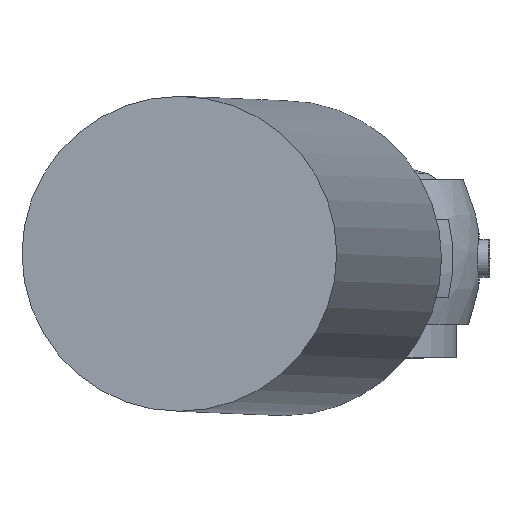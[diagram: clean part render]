
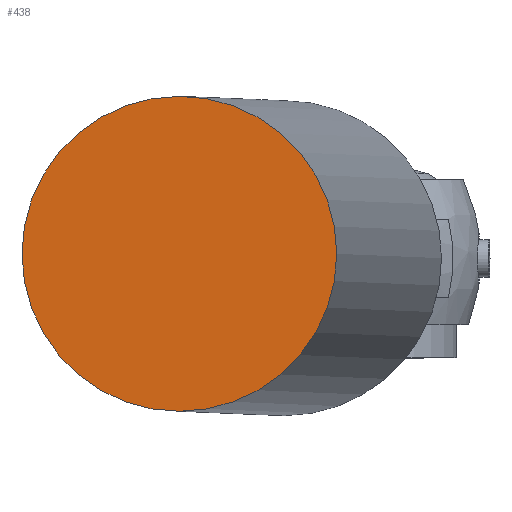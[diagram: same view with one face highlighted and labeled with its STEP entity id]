
A CAD part, top view. The second image highlights one B-rep face of the part: STEP entity #438.
In plain terms, the highlighted planar face has unit normal (-0.042, 0, 0.999).
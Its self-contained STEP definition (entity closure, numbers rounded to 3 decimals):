
#80 = EDGE_CURVE ( 'NONE', #1048, #1048, #2537, .T. ) ;
#167 = EDGE_LOOP ( 'NONE', ( #1125 ) ) ;
#303 = AXIS2_PLACEMENT_3D ( 'NONE', #1460, #651, #677 ) ;
#438 = ADVANCED_FACE ( 'NONE', ( #1096 ), #1683, .T. ) ;
#651 = DIRECTION ( 'NONE',  ( -0.042, 0., 0.999 ) ) ;
#677 = DIRECTION ( 'NONE',  ( 0., 1., 0. ) ) ;
#848 = CARTESIAN_POINT ( 'NONE',  ( 325.267, 389.5, 2099.118 ) ) ;
#1048 = VERTEX_POINT ( 'NONE', #848 ) ;
#1096 = FACE_OUTER_BOUND ( 'NONE', #167, .T. ) ;
#1125 = ORIENTED_EDGE ( 'NONE', *, *, #80, .T. ) ;
#1414 = DIRECTION ( 'NONE',  ( -0.042, 0., 0.999 ) ) ;
#1460 = CARTESIAN_POINT ( 'NONE',  ( 325.267, 339.5, 2099.118 ) ) ;
#1462 = AXIS2_PLACEMENT_3D ( 'NONE', #2013, #1414, #1474 ) ;
#1474 = DIRECTION ( 'NONE',  ( 0., 1., 0. ) ) ;
#1683 = PLANE ( 'NONE',  #303 ) ;
#2013 = CARTESIAN_POINT ( 'NONE',  ( 325.267, 339.5, 2099.118 ) ) ;
#2537 = CIRCLE ( 'NONE', #1462, 50. ) ;
